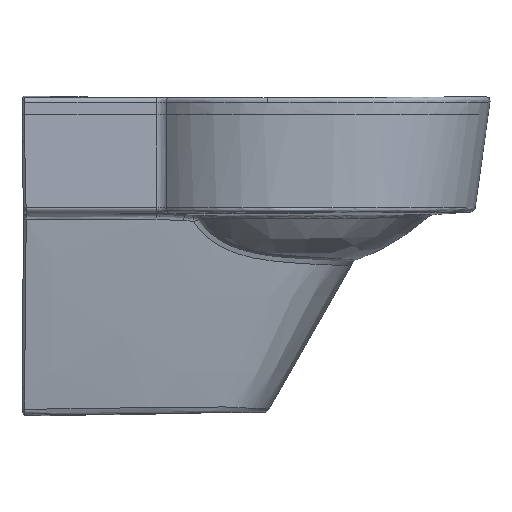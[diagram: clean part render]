
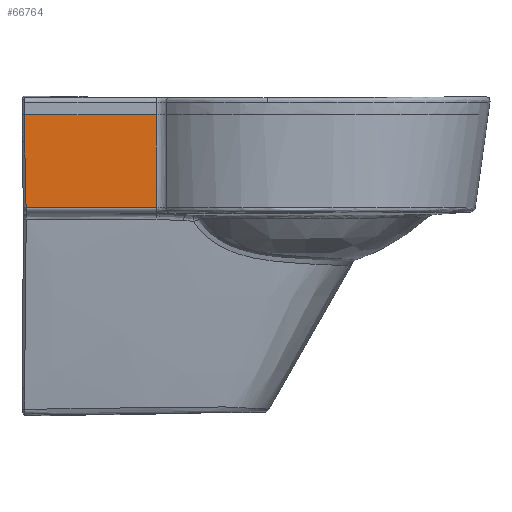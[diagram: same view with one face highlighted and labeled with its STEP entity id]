
A CAD part, front view. The second image highlights one B-rep face of the part: STEP entity #66764.
In plain terms, the highlighted planar face has unit normal (0.009, -1, 0).
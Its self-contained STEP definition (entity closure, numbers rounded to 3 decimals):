
#62234=CARTESIAN_POINT('Vertex',(-30.388,-132.465,-124.104)) ;
#62270=CARTESIAN_POINT('Control Point',(-30.388,-132.465,-124.104)) ;
#62271=CARTESIAN_POINT('Control Point',(-30.589,-132.467,-109.233)) ;
#62272=CARTESIAN_POINT('Control Point',(-30.849,-132.469,-94.362)) ;
#62273=CARTESIAN_POINT('Control Point',(-31.166,-132.472,-79.491)) ;
#62274=CARTESIAN_POINT('Control Point',(-31.541,-132.475,-64.621)) ;
#62275=CARTESIAN_POINT('Control Point',(-31.974,-132.479,-49.751)) ;
#62276=CARTESIAN_POINT('Vertex',(-31.974,-132.479,-49.751)) ;
#66684=CARTESIAN_POINT('Vertex',(117.097,-131.178,-124.104)) ;
#66687=CARTESIAN_POINT('Line Origine',(41.049,-131.842,-124.104)) ;
#66725=CARTESIAN_POINT('Vertex',(-31.974,-132.479,-19.)) ;
#66728=CARTESIAN_POINT('Line Origine',(-31.974,-132.479,-64.552)) ;
#66740=CARTESIAN_POINT('Axis2P3D Location',(134.995,-131.022,0.)) ;
#66745=CARTESIAN_POINT('Line Origine',(117.097,-131.178,-71.552)) ;
#66749=CARTESIAN_POINT('Vertex',(117.097,-131.178,-19.)) ;
#66752=CARTESIAN_POINT('Line Origine',(42.562,-131.829,-19.)) ;
#66688=DIRECTION('Vector Direction',(-1.,-0.009,0.)) ;
#66729=DIRECTION('Vector Direction',(0.,0.,1.)) ;
#66741=DIRECTION('Axis2P3D Direction',(0.009,-1.,0.)) ;
#66742=DIRECTION('Axis2P3D XDirection',(-1.,-0.009,0.)) ;
#66746=DIRECTION('Vector Direction',(0.,0.,1.)) ;
#66753=DIRECTION('Vector Direction',(-1.,-0.009,0.)) ;
#66743=AXIS2_PLACEMENT_3D('Plane Axis2P3D',#66740,#66741,#66742) ;
#66758=ORIENTED_EDGE('',*,*,#66732,.F.) ;
#66759=ORIENTED_EDGE('',*,*,#62278,.F.) ;
#66760=ORIENTED_EDGE('',*,*,#66691,.T.) ;
#66761=ORIENTED_EDGE('',*,*,#66751,.T.) ;
#66762=ORIENTED_EDGE('',*,*,#66756,.T.) ;
#66689=VECTOR('Line Direction',#66688,1.) ;
#66730=VECTOR('Line Direction',#66729,1.) ;
#66747=VECTOR('Line Direction',#66746,1.) ;
#66754=VECTOR('Line Direction',#66753,1.) ;
#66764=ADVANCED_FACE('Modell 1:1',(#66763),#66744,.T.) ;
#62269=B_SPLINE_CURVE_WITH_KNOTS('',5,(#62270,#62271,#62272,#62273,#62274,#62275),.UNSPECIFIED.,.F.,.U.,(6,6),(367.862,472.994),.UNSPECIFIED.) ;
#62278=EDGE_CURVE('',#62235,#62277,#62269,.T.) ;
#66691=EDGE_CURVE('',#62235,#66685,#66690,.F.) ;
#66732=EDGE_CURVE('',#62277,#66726,#66731,.T.) ;
#66751=EDGE_CURVE('',#66685,#66750,#66748,.T.) ;
#66756=EDGE_CURVE('',#66750,#66726,#66755,.T.) ;
#66757=EDGE_LOOP('',(#66758,#66759,#66760,#66761,#66762)) ;
#66763=FACE_OUTER_BOUND('',#66757,.T.) ;
#66690=LINE('Line',#66687,#66689) ;
#66731=LINE('Line',#66728,#66730) ;
#66748=LINE('Line',#66745,#66747) ;
#66755=LINE('Line',#66752,#66754) ;
#66744=PLANE('Plane',#66743) ;
#62235=VERTEX_POINT('',#62234) ;
#62277=VERTEX_POINT('',#62276) ;
#66685=VERTEX_POINT('',#66684) ;
#66726=VERTEX_POINT('',#66725) ;
#66750=VERTEX_POINT('',#66749) ;
